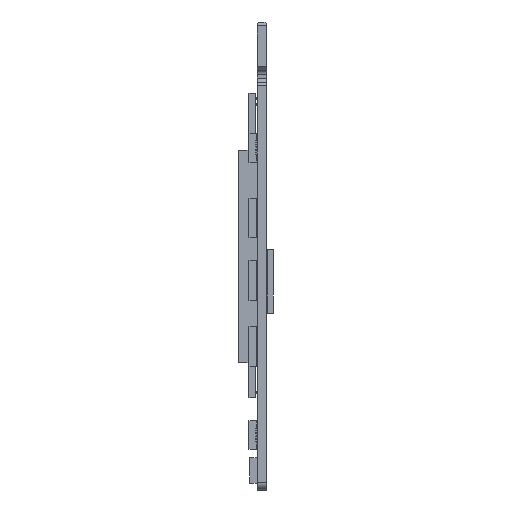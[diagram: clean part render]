
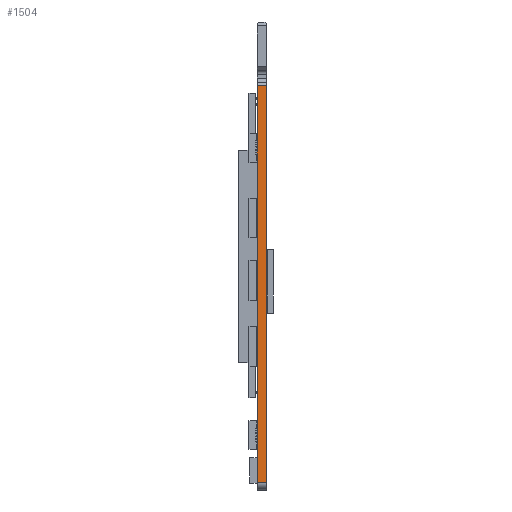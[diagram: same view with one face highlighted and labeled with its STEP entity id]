
A CAD part, left-side view. The second image highlights one B-rep face of the part: STEP entity #1504.
In plain terms, the highlighted planar face has unit normal (-1, 0, 0).
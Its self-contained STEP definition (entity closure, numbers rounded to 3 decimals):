
#172=DIRECTION('',(0.,-1.,0.));
#173=VECTOR('',#172,1.2);
#174=CARTESIAN_POINT('',(-41.,1.2,-29.));
#175=LINE('',#174,#173);
#523=DIRECTION('',(0.,0.,1.));
#524=VECTOR('',#523,50.8);
#525=CARTESIAN_POINT('',(-41.,1.2,-29.));
#526=LINE('',#525,#524);
#527=DIRECTION('',(0.,-1.,0.));
#528=VECTOR('',#527,1.2);
#529=CARTESIAN_POINT('',(-41.,1.2,21.8));
#530=LINE('',#529,#528);
#531=DIRECTION('',(0.,0.,-1.));
#532=VECTOR('',#531,50.8);
#533=CARTESIAN_POINT('',(-41.,0.,21.8));
#534=LINE('',#533,#532);
#648=CARTESIAN_POINT('',(-41.,0.,-29.));
#650=VERTEX_POINT('',#648);
#651=CARTESIAN_POINT('',(-41.,0.,21.8));
#652=VERTEX_POINT('',#651);
#729=CARTESIAN_POINT('',(-41.,1.2,-29.));
#730=VERTEX_POINT('',#729);
#785=CARTESIAN_POINT('',(-41.,1.2,21.8));
#786=VERTEX_POINT('',#785);
#1493=CARTESIAN_POINT('',(-41.,0.6,-3.6));
#1494=DIRECTION('',(1.,0.,0.));
#1495=DIRECTION('',(0.,0.,1.));
#1496=AXIS2_PLACEMENT_3D('',#1493,#1494,#1495);
#1497=PLANE('',#1496);
#1498=ORIENTED_EDGE('',*,*,#968,.F.);
#1499=ORIENTED_EDGE('',*,*,#1113,.T.);
#1500=ORIENTED_EDGE('',*,*,#1488,.T.);
#1501=ORIENTED_EDGE('',*,*,#862,.T.);
#1502=EDGE_LOOP('',(#1498,#1499,#1500,#1501));
#1503=FACE_OUTER_BOUND('',#1502,.F.);
#1504=ADVANCED_FACE('',(#1503),#1497,.F.);
#862=EDGE_CURVE('',#652,#650,#534,.T.);
#968=EDGE_CURVE('',#730,#650,#175,.T.);
#1113=EDGE_CURVE('',#730,#786,#526,.T.);
#1488=EDGE_CURVE('',#786,#652,#530,.T.);
